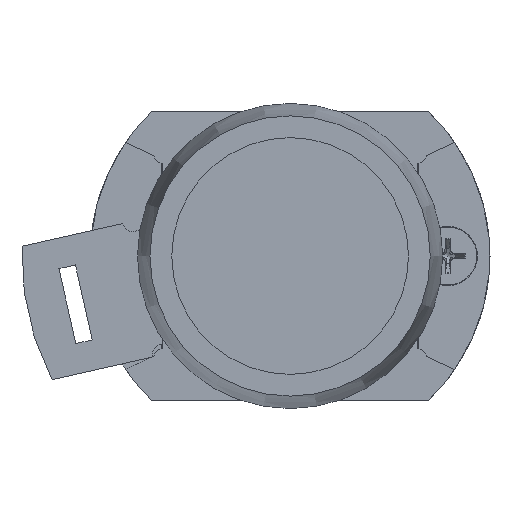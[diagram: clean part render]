
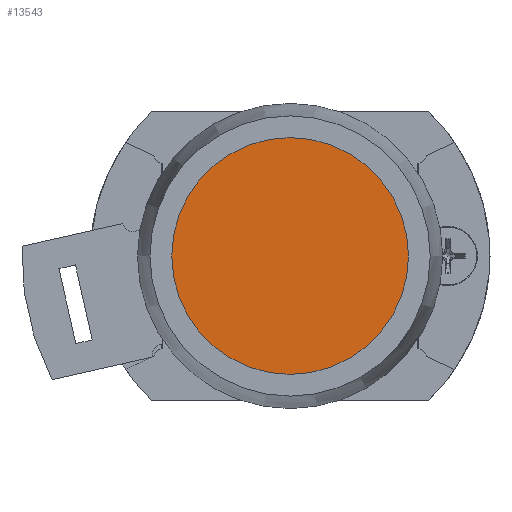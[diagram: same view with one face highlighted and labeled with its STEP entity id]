
A CAD part, left-side view. The second image highlights one B-rep face of the part: STEP entity #13543.
In plain terms, the highlighted planar face has unit normal (-1, 0, 0).
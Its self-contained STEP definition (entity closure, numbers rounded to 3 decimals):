
#1990 = EDGE_LOOP ( 'NONE', ( #3989 ) ) ;
#2906 = EDGE_CURVE ( 'NONE', #11988, #11988, #7433, .T. ) ;
#3285 = AXIS2_PLACEMENT_3D ( 'NONE', #6645, #6646, #6647 ) ;
#3989 = ORIENTED_EDGE ( 'NONE', *, *, #2906, .T. ) ;
#6645 = CARTESIAN_POINT ( 'NONE',  ( 1., 0., 0. ) ) ;
#6646 = DIRECTION ( 'NONE',  ( -1., 0., 0. ) ) ;
#6647 = DIRECTION ( 'NONE',  ( 0., 0., -1. ) ) ;
#7433 = CIRCLE ( 'NONE', #3285, 11.25 ) ;
#9817 = AXIS2_PLACEMENT_3D ( 'NONE', #11892, #11898, #11899 ) ;
#11702 = FACE_OUTER_BOUND ( 'NONE', #1990, .T. ) ;
#11889 = PLANE ( 'NONE',  #9817 ) ;
#11892 = CARTESIAN_POINT ( 'NONE',  ( 1., 5.625, 0. ) ) ;
#11898 = DIRECTION ( 'NONE',  ( -1., 0., 0. ) ) ;
#11899 = DIRECTION ( 'NONE',  ( 0., 0., 1. ) ) ;
#11988 = VERTEX_POINT ( 'NONE', #11989 ) ;
#11989 = CARTESIAN_POINT ( 'NONE',  ( 1., 0., -11.25 ) ) ;
#13543 = ADVANCED_FACE ( 'NONE', ( #11702 ), #11889, .T. ) ;
